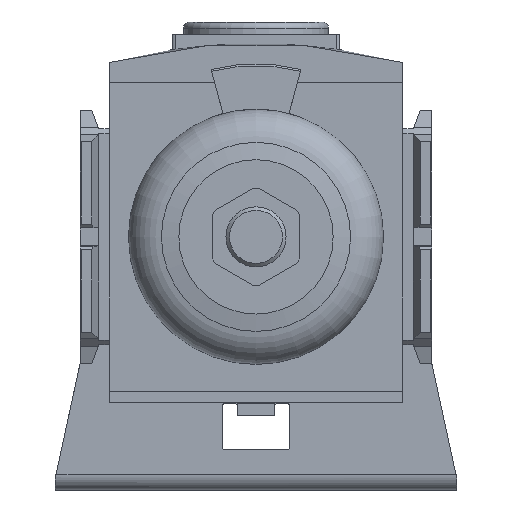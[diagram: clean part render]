
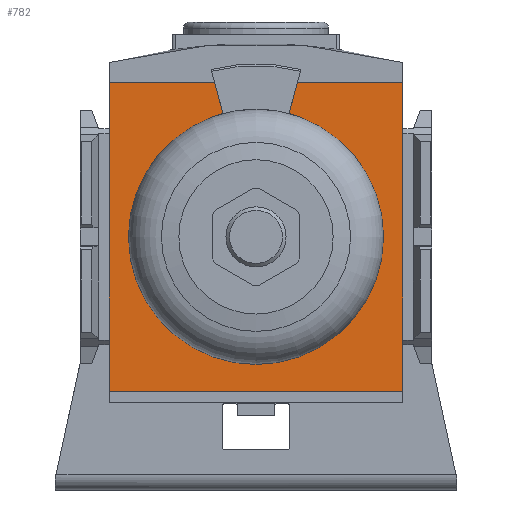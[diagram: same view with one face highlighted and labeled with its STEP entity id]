
A CAD part, front view. The second image highlights one B-rep face of the part: STEP entity #782.
In plain terms, the highlighted planar face has unit normal (0, -1, 0) as drawn and (0, 1, 0) by its records, which use the part's own axes.
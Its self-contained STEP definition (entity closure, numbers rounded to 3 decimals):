
#782 = ADVANCED_FACE( '', ( #1705, #1706 ), #1707, .T. );
#1705 = FACE_BOUND( '', #2753, .T. );
#1706 = FACE_OUTER_BOUND( '', #2754, .T. );
#1707 = PLANE( '', #2755 );
#2753 = EDGE_LOOP( '', ( #5081 ) );
#2754 = EDGE_LOOP( '', ( #5082, #5083, #5084, #5085 ) );
#2755 = AXIS2_PLACEMENT_3D( '', #5086, #5087, #5088 );
#5081 = ORIENTED_EDGE( '', *, *, #6962, .T. );
#5082 = ORIENTED_EDGE( '', *, *, #7059, .T. );
#5083 = ORIENTED_EDGE( '', *, *, #7176, .T. );
#5084 = ORIENTED_EDGE( '', *, *, #7212, .T. );
#5085 = ORIENTED_EDGE( '', *, *, #6603, .T. );
#5086 = CARTESIAN_POINT( '', ( 0., 32., 0. ) );
#5087 = DIRECTION( '', ( 0., 1., 0. ) );
#5088 = DIRECTION( '', ( 0., 0., 1. ) );
#6603 = EDGE_CURVE( '', #8088, #8086, #8089, .T. );
#6962 = EDGE_CURVE( '', #8652, #8652, #8653, .T. );
#7059 = EDGE_CURVE( '', #8086, #8792, #8794, .T. );
#7176 = EDGE_CURVE( '', #8792, #8950, #8952, .T. );
#7212 = EDGE_CURVE( '', #8950, #8088, #8996, .T. );
#8086 = VERTEX_POINT( '', #10114 );
#8088 = VERTEX_POINT( '', #10117 );
#8089 = LINE( '', #10118, #10119 );
#8652 = VERTEX_POINT( '', #10877 );
#8653 = CIRCLE( '', #10878, 20.661 );
#8792 = VERTEX_POINT( '', #11084 );
#8794 = LINE( '', #11087, #11088 );
#8950 = VERTEX_POINT( '', #11317 );
#8952 = LINE( '', #11320, #11321 );
#8996 = LINE( '', #11383, #11384 );
#10114 = CARTESIAN_POINT( '', ( -23.75, 32., -25. ) );
#10117 = CARTESIAN_POINT( '', ( 23.75, 32., -25. ) );
#10118 = CARTESIAN_POINT( '', ( 23.75, 32., -25. ) );
#10119 = VECTOR( '', #12258, 1000. );
#10877 = CARTESIAN_POINT( '', ( 0., 32., -20.661 ) );
#10878 = AXIS2_PLACEMENT_3D( '', #12721, #12722, #12723 );
#11084 = CARTESIAN_POINT( '', ( -23.75, 32., 25. ) );
#11087 = CARTESIAN_POINT( '', ( -23.75, 32., -25. ) );
#11088 = VECTOR( '', #12807, 1000. );
#11317 = CARTESIAN_POINT( '', ( 23.75, 32., 25. ) );
#11320 = CARTESIAN_POINT( '', ( -23.75, 32., 25. ) );
#11321 = VECTOR( '', #12915, 1000. );
#11383 = CARTESIAN_POINT( '', ( 23.75, 32., 25. ) );
#11384 = VECTOR( '', #12943, 1000. );
#12258 = DIRECTION( '', ( -1., 0., 0. ) );
#12721 = CARTESIAN_POINT( '', ( 0., 32., 0. ) );
#12722 = DIRECTION( '', ( 0., -1., 0. ) );
#12723 = DIRECTION( '', ( 0., 0., -1. ) );
#12807 = DIRECTION( '', ( 0., 0., 1. ) );
#12915 = DIRECTION( '', ( 1., 0., 0. ) );
#12943 = DIRECTION( '', ( 0., 0., -1. ) );
